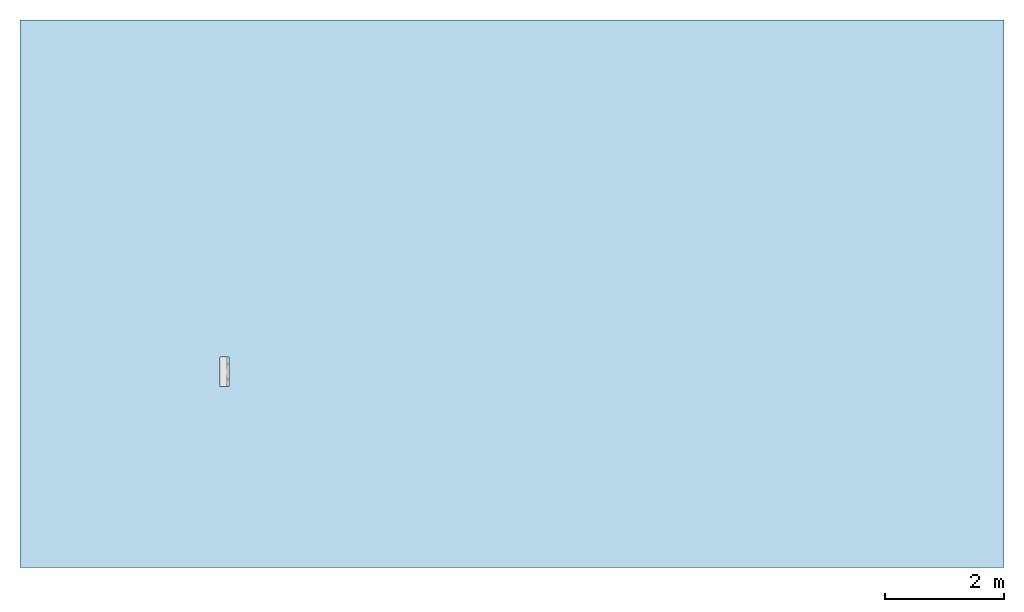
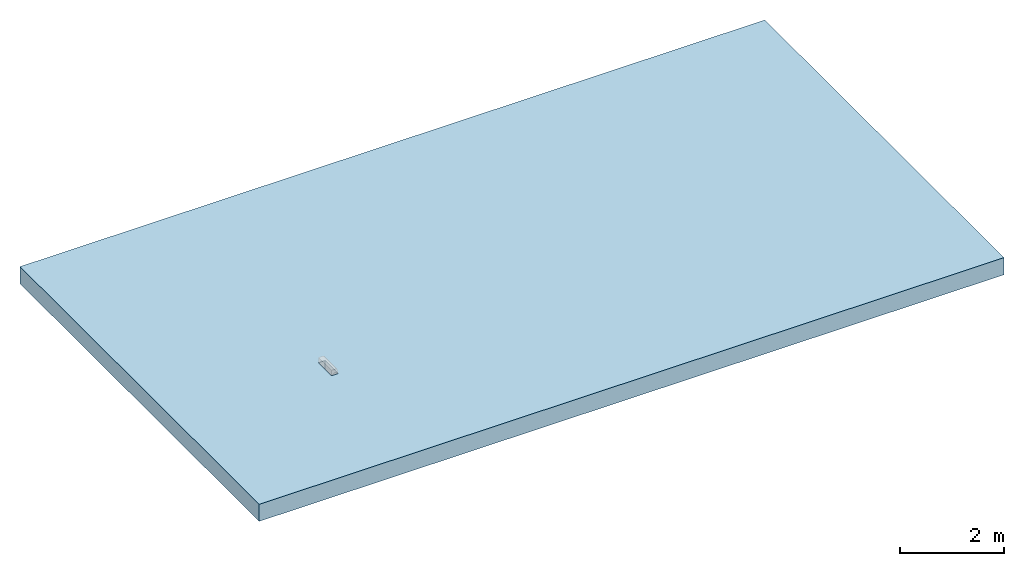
# One storey, part 1 of 2: 1 slab, 2 openings.
"""IFC2X3 building model written with IfcOpenShell, lengths in millimetres."""

import ifcopenshell
import ifcopenshell.guid

model = None  # the IFC model being written
_history = None  # IfcOwnerHistory: only IFC2X3 demands one
_inside = {}  # id of a spatial element -> (the spatial element, [elements in it])
_under = {}  # id of a project, library or spatial element -> (it, [spatial elements below it])
_declared = {}  # id of a project -> (the project, [libraries it declares])
_typed = {}  # id of a type object -> (the type object, [elements of that type])
_made_of = {}  # id of a material, layer set ... -> (it, [elements and type objects made of it])


def new_model(schema):
    """Start an empty IFC model of exactly this schema.

    Asked for "IFC4X3", IfcOpenShell would pick the latest addendum, in which some entities
    have other attributes; the version numbers below select the first issue.
    IFC2X3 requires an IfcOwnerHistory on every rooted entity: one is made here for all.
    """
    global model, _history
    if schema == "IFC4X3":
        model = ifcopenshell.file(schema_version=(4, 3, 0, 0))
    else:
        model = ifcopenshell.file(schema=schema)
    _inside.clear()
    _under.clear()
    _declared.clear()
    _typed.clear()
    _made_of.clear()
    _history = None
    if model.schema == "IFC2X3":
        org = make("IfcOrganization", Name="unknown")
        user = make(
            "IfcPersonAndOrganization",
            ThePerson=make("IfcPerson", FamilyName="unknown"),
            TheOrganization=org,
        )
        app = make(
            "IfcApplication",
            ApplicationDeveloper=org,
            Version="unknown",
            ApplicationFullName="unknown",
            ApplicationIdentifier="unknown",
        )
        _history = make(
            "IfcOwnerHistory",
            OwningUser=user,
            OwningApplication=app,
            ChangeAction="ADDED",
            CreationDate=0,
        )
    return model


def make(cls, **values):
    """One entity of the class cls with the attributes given. An attribute that is None is left unset."""
    return model.create_entity(
        cls, **{name: value for name, value in values.items() if value is not None}
    )


def entity(cls, *values):
    """Any entity or typed value of the class cls, its attributes in the order of the schema. None: left unset."""
    e = model.create_entity(cls)
    for i, value in enumerate(values):
        if value is not None:
            e[i] = value
    return e


def rooted(cls, **values):
    """An entity with a GlobalId (a new one), such as an element, a storey or a relation."""
    return make(cls, GlobalId=ifcopenshell.guid.new(), OwnerHistory=_history, **values)


def si_unit(unit_type, name, prefix=None):
    """IfcSIUnit, for example si_unit("LENGTHUNIT", "METRE", prefix="MILLI")."""
    return make("IfcSIUnit", UnitType=unit_type, Prefix=prefix, Name=name)


def converted_unit(unit_type, name, factor, base, dimensions=None, offset=None):
    """IfcConversionBasedUnit, such as the inch: factor (a typed value) times the base unit."""
    return make(
        "IfcConversionBasedUnit"
        if offset is None
        else "IfcConversionBasedUnitWithOffset",
        ConversionOffset=offset,
        Dimensions=None
        if dimensions is None
        else entity("IfcDimensionalExponents", *dimensions),
        UnitType=unit_type,
        Name=name,
        ConversionFactor=make(
            "IfcMeasureWithUnit", ValueComponent=factor, UnitComponent=base
        ),
    )


def assignment(units):
    """IfcUnitAssignment: the units of a project."""
    return None if units is None else make("IfcUnitAssignment", Units=units)


def point(xyz):
    """IfcCartesianPoint."""
    return None if xyz is None else make("IfcCartesianPoint", Coordinates=xyz)


def direction(xyz):
    """IfcDirection."""
    return None if xyz is None else make("IfcDirection", DirectionRatios=xyz)


def frame(location, z_axis=None, x_axis=None):
    """IfcAxis2Placement3D, a coordinate frame: its origin and axes. An axis left out is left unset."""
    return make(
        "IfcAxis2Placement3D",
        Location=point(location),
        Axis=direction(z_axis),
        RefDirection=direction(x_axis),
    )


def frame_2d(location, x_axis=None):
    """IfcAxis2Placement2D, a coordinate frame in the plane: its origin and x axis."""
    return make(
        "IfcAxis2Placement2D", Location=point(location), RefDirection=direction(x_axis)
    )


def origin():
    """The frame at (0, 0, 0) with its axes left unset."""
    return frame((0.0, 0.0, 0.0))


def origin_2d_with_axis():
    """The frame at (0, 0) in the plane with the x axis (1, 0) written out."""
    return frame_2d((0.0, 0.0), x_axis=(1.0, 0.0))


def place(relative_to, where):
    """IfcLocalPlacement: puts the frame where relative to a parent placement (None: the world)."""
    return make(
        "IfcLocalPlacement", PlacementRelTo=relative_to, RelativePlacement=where
    )


def context(
    kind, dimensions, precision=None, world=None, true_north=None, identifier=None
):
    """IfcGeometricRepresentationContext, for example the 3D "Model" context."""
    return make(
        "IfcGeometricRepresentationContext",
        ContextIdentifier=identifier,
        ContextType=kind,
        CoordinateSpaceDimension=dimensions,
        Precision=precision,
        WorldCoordinateSystem=world,
        TrueNorth=true_north,
    )


def subcontext(parent, identifier, kind, view, scale=None):
    """IfcGeometricRepresentationSubContext, for example "Body" below "Model"."""
    return make(
        "IfcGeometricRepresentationSubContext",
        ContextIdentifier=identifier,
        ContextType=kind,
        ParentContext=parent,
        TargetScale=scale,
        TargetView=view,
    )


def project(units=None, contexts=None):
    """IfcProject with its units and contexts."""
    return rooted(
        "IfcProject",
        Name="project",
        RepresentationContexts=contexts,
        UnitsInContext=assignment(units),
    )


def spatial(cls, under=None, at=None, **own):
    """A site, building, storey or space (cls), placed at a placement, below another one or the project."""
    s = rooted(cls, ObjectPlacement=at, **own)
    if under is not None:
        _under.setdefault(under.id(), (under, []))[1].append(s)
    return s


def profile(cls, at=None, kind="AREA", **sizes):
    """A parametric profile (cls). Its sizes go by their IFC names, for example OverallWidth=200.0."""
    return make(cls, ProfileType=kind, Position=at, **sizes)


def rectangle(**sizes):
    """IfcRectangleProfileDef."""
    return profile("IfcRectangleProfileDef", **sizes)


def circle(**sizes):
    """IfcCircleProfileDef."""
    return profile("IfcCircleProfileDef", **sizes)


def extrude(swept, where, along, depth):
    """IfcExtrudedAreaSolid: the profile swept, set in the frame where, extruded along a direction by depth."""
    return make(
        "IfcExtrudedAreaSolid",
        SweptArea=swept,
        Position=where,
        ExtrudedDirection=direction(along),
        Depth=depth,
    )


def shape(context_of_items, identifier, shape_type, items):
    """IfcShapeRepresentation: the items that make up one representation, for example the "Body"."""
    return make(
        "IfcShapeRepresentation",
        ContextOfItems=context_of_items,
        RepresentationIdentifier=identifier,
        RepresentationType=shape_type,
        Items=items,
    )


def material(Name=None, Category=None):
    """IfcMaterial."""
    return make("IfcMaterial", Name=Name, Category=Category)


def layer(
    of_material, thickness, ventilated=None, Name=None, Category=None, Priority=None
):
    """IfcMaterialLayer: one layer of a wall or slab, of a material (None: an air gap)."""
    return make(
        "IfcMaterialLayer",
        Material=of_material,
        LayerThickness=thickness,
        IsVentilated=ventilated,
        Name=Name,
        Category=Category,
        Priority=Priority,
    )


def layer_set(layers, Name=None):
    """IfcMaterialLayerSet."""
    return make("IfcMaterialLayerSet", MaterialLayers=layers, LayerSetName=Name)


def layer_usage(for_layer_set, set_direction, sense, offset, extent=None):
    """IfcMaterialLayerSetUsage: how a layer set lies in its element."""
    return make(
        "IfcMaterialLayerSetUsage",
        ForLayerSet=for_layer_set,
        LayerSetDirection=set_direction,
        DirectionSense=sense,
        OffsetFromReferenceLine=offset,
        ReferenceExtent=extent,
    )


def made_of(thing, what):
    """Note that an element or type object is made of a material, layer set ...; save() writes the relation."""
    if what is not None:
        _made_of.setdefault(what.id(), (what, []))[1].append(thing)
    return thing


def element(
    cls,
    number,
    at=None,
    inside=None,
    cuts=None,
    type_object=None,
    material=None,
    context=None,
    identifier="Body",
    shape_type=None,
    held_by="IfcProductDefinitionShape",
    body=None,
    shapes=None,
    **own,
):
    """One element of the class cls, such as IfcWall. Its Tag is "e" and its number.

    at: its placement. inside: the storey or other place that contains it. cuts: it is an
    opening in that element (IfcRelVoidsElement). A single representation is given by context,
    identifier, shape_type and body (its items); several are given by shapes. held_by: the class
    of the entity that holds the representations. save() writes the other relations.
    """
    e = rooted(cls, Tag="e%d" % number, ObjectPlacement=at, **own)
    if body is not None:
        shapes = [shape(context, identifier, shape_type, body)]
    if shapes is not None:
        e.Representation = make(held_by, Representations=shapes)
    if inside is not None:
        _inside.setdefault(inside.id(), (inside, []))[1].append(e)
    if cuts is not None:
        rooted(
            "IfcRelVoidsElement", RelatingBuildingElement=cuts, RelatedOpeningElement=e
        )
    if type_object is not None:
        _typed.setdefault(type_object.id(), (type_object, []))[1].append(e)
    return made_of(e, material)


def aggregate(whole, parts):
    """IfcRelAggregates: a whole, such as a stair, and the parts it consists of."""
    return rooted("IfcRelAggregates", RelatingObject=whole, RelatedObjects=parts)


def save(model, path):
    """Write the relations noted so far, then the file.

    IfcRelAggregates (storeys below a building ...), IfcRelContainedInSpatialStructure (elements
    in a storey), IfcRelDefinesByType, IfcRelAssociatesMaterial and IfcRelDeclares: one each for
    every whole, place, type object, material and project.
    """
    for whole, parts in _under.values():
        aggregate(whole, parts)
    for where, things in _inside.values():
        rooted(
            "IfcRelContainedInSpatialStructure",
            RelatedElements=things,
            RelatingStructure=where,
        )
    for kind, things in _typed.values():
        rooted("IfcRelDefinesByType", RelatedObjects=things, RelatingType=kind)
    for what, things in _made_of.values():
        rooted("IfcRelAssociatesMaterial", RelatedObjects=things, RelatingMaterial=what)
    for by, libraries in _declared.values():
        rooted("IfcRelDeclares", RelatingContext=by, RelatedDefinitions=libraries)
    model.write(path)


model = new_model("IFC2X3")

# Units and contexts
model_context = context("Model", 3, precision=1e-06, world=origin(), true_north=direction((2.0, 6.12303176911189e-17, 1.0)))
context_of_model = context(None, 3, precision=1e-06, world=origin(), true_north=direction((2.0, 6.12303176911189e-17, 1.0)))
body_context = subcontext(model_context, "Body", "Model", "MODEL_VIEW")
ifc_project = project(units=[si_unit("LENGTHUNIT", "METRE", prefix="MILLI"), si_unit("AREAUNIT", "SQUARE_METRE", prefix="MILLI"), si_unit("VOLUMEUNIT", "CUBIC_METRE", prefix="MILLI"), converted_unit("PLANEANGLEUNIT", "DEGREE", entity("IfcRatioMeasure", 0.0174532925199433), si_unit("PLANEANGLEUNIT", "RADIAN"), dimensions=[0, 0, 0, 0, 0, 0, 0]), si_unit("TIMEUNIT", "SECOND")], contexts=[model_context, context_of_model])

# Site, building, storey
site_placement = place(None, origin())
site = spatial("IfcSite", under=ifc_project, at=site_placement, Name="Default", CompositionType="ELEMENT")
building_placement = place(site_placement, origin())
building = spatial("IfcBuilding", under=site, at=building_placement, CompositionType="ELEMENT")
storey_placement = place(building_placement, origin())
storey = spatial("IfcBuildingStorey", under=building, at=storey_placement, Name="Level 1", CompositionType="ELEMENT", Elevation=0.0)

# Slab, openings
ifc_material = material(Name="Plant")
ifc_layer = layer(ifc_material, 400.0)
ifc_layer_set = layer_set([ifc_layer], Name="Floor:Generic Floor - 400mm")
ifc_layer_usage = layer_usage(ifc_layer_set, "AXIS3", "POSITIVE", 0.0)
slab_placement = place(storey_placement, frame((-17967.0691536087, -3738.31688706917, -400.0)))
slab = element("IfcSlab", 1, at=slab_placement, inside=storey, material=ifc_layer_usage, Name="Floor:Generic Floor - 400mm", ObjectType="Floor:Generic Floor - 400mm", PredefinedType="FLOOR", context=body_context, shape_type="SweptSolid", body=[
    extrude(rectangle(XDim=9180.0, YDim=16500.0, at=frame_2d((0.0, 0.0), x_axis=(0.0, -1.0))), frame((8250.0, 4590.0, 400.0), z_axis=(0.0, 0.0, -1.0), x_axis=(-1.0, 0.0, 0.0)), (0.0, 0.0, 1.0), 400.0),
])
opening_1_placement = place(slab_placement, origin())
element("IfcOpeningElement", 2, at=opening_1_placement, cuts=slab, ObjectType="Recess", context=body_context, shape_type="SweptSolid", body=[
    extrude(circle(Radius=55.0, at=origin_2d_with_axis()), frame((3425.49007533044, 3082.99077482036, -1475.0), z_axis=(0.0, 1.0, 0.0), x_axis=(1.0, 0.0, 0.0)), (0.0, 0.0, 1.0), 75.0),
])
opening_2_placement = place(slab_placement, origin())
element("IfcOpeningElement", 3, at=opening_2_placement, cuts=slab, ObjectType="Recess", context=body_context, shape_type="SweptSolid", body=[
    extrude(rectangle(XDim=149.999999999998, YDim=500.0, at=origin_2d_with_axis()), frame((3425.46967172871, 3282.99077482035, 120.0), z_axis=(0.0, 0.0, 1.0), x_axis=(-1.0, 0.0, 0.0)), (0.0, 0.0, 1.0), 280.0),
])

save(model, "model.ifc")
